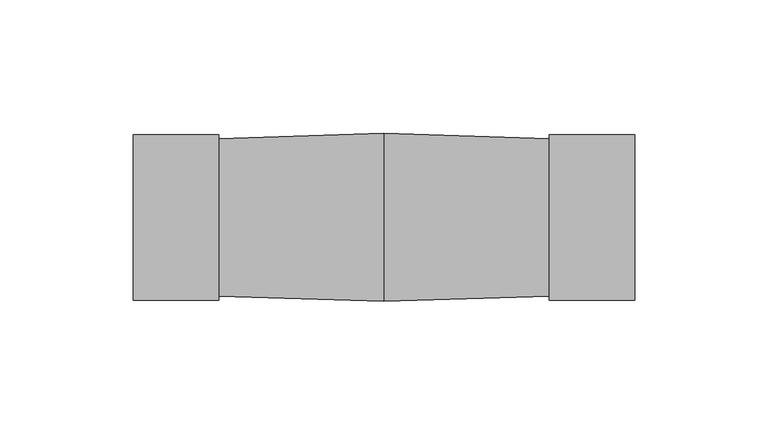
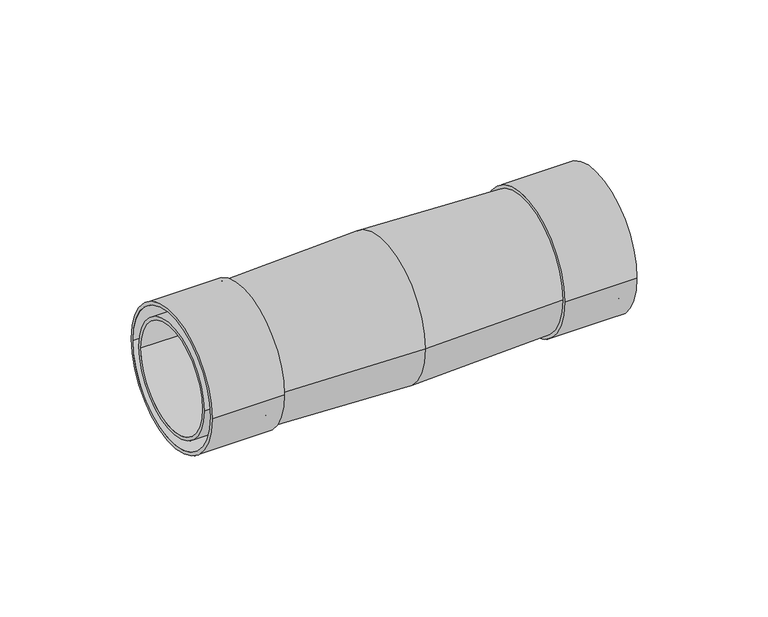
"""IFC4 building model written with IfcOpenShell, lengths in millimetres: cable carrier fitting geometry, КНС_МуфтаДляАрмированныхТруб_IP65_DKC : Коробка."""

from ifc_helpers import new_model, si_unit, point, frame, origin, origin_2d, place, context, project, spatial, polyline, circle_curve, trimmed, segment, composite_curve, outline, extrude, source, transform, mapped, element, save
from ifc_brep_helpers import plane_surface, revolved_surface, advanced_brep


def cable_carrier_fitting_927482d8(model_context):
    return source(origin(), model_context, "Body", "SolidModel", [
        advanced_brep(
        [(-62.0, -29.5, 0.0), (-62.0, 29.5, 0.0), (0.0, 31.5, 0.0), (0.0, -31.5, 0.0), (-62.0, 0.0, 0.0), (62.0, -29.5, 0.0), (62.0, 29.5, 0.0), (62.0, 0.0, 0.0)],
        [
            (0, 1, circle_curve(frame((-62.0, 0.0, 0.0), z_axis=(1.0, 0.0, 0.0), x_axis=(0.0, 1.0, 0.0)), 29.5)),
            (1, 2),
            (2, 3, circle_curve(frame((0.0, 0.0, 0.0), z_axis=(-1.0, 0.0, 0.0), x_axis=(0.0, 1.0, 0.0)), 31.5)),
            (3, 0),
            (1, 0, circle_curve(frame((-62.0, 0.0, 0.0), z_axis=(1.0, 0.0, 0.0), x_axis=(0.0, 1.0, 0.0)), 29.5)),
            (3, 2, circle_curve(frame((0.0, 0.0, 0.0), z_axis=(-1.0, 0.0, 0.0), x_axis=(0.0, 1.0, 0.0)), 31.5)),
            (4, 1),
            (0, 4),
            (5, 6, circle_curve(frame((62.0, 0.0, 0.0), z_axis=(1.0, 0.0, 0.0), x_axis=(0.0, 1.0, 0.0)), 29.5)),
            (6, 7),
            (7, 5),
            (6, 5, circle_curve(frame((62.0, 0.0, 0.0), z_axis=(1.0, 0.0, 0.0), x_axis=(0.0, 1.0, 0.0)), 29.5)),
            (2, 6),
            (5, 3),
        ],
        [
            revolved_surface(polyline([(0.0, 31.5, 0.0), (-62.0, 29.5, 0.0)]), (1545.0, 0.0, 0.0), (-1.0, 0.0, 0.0)),
            plane_surface(frame((-62.0, 0.0, 0.0), z_axis=(-1.0, 0.0, 0.0), x_axis=(0.0, 1.0, 0.0))),
            plane_surface(frame((62.0, 0.0, 0.0), z_axis=(1.0, 0.0, 0.0), x_axis=(0.0, 1.0, 0.0))),
            revolved_surface(polyline([(62.0, 29.5, 0.0), (0.0, 31.5, 0.0)]), (1545.0, 0.0, 0.0), (-1.0, 0.0, 0.0)),
        ],
        [
            (0, [[1, 2, 3, 4]]),
            (0, [[5, -4, 6, -2]]),
            (1, [[7, -1, 8]]),
            (1, [[-8, -5, -7]]),
            (2, [[9, 10, 11]]),
            (2, [[12, -11, -10]]),
            (3, [[-3, 13, -9, 14]]),
            (3, [[-6, -14, -12, -13]]),
        ],
    ),
        extrude(outline(composite_curve([segment(trimmed(circle_curve(origin_2d(), 25.0), [point((-25.0, 0.0))], [point((25.0, 0.0))], False, "CARTESIAN"), True, "CONTINUOUS"), segment(trimmed(circle_curve(origin_2d(), 25.0), [point((25.0, 0.0))], [point((-25.0, 0.0))], False, "CARTESIAN"), True, "CONTINUOUS")], self_intersect=False), holes=[composite_curve([segment(trimmed(circle_curve(origin_2d(), 23.5), [point((-23.5, 0.0))], [point((23.5, 0.0))], True, "CARTESIAN"), True, "CONTINUOUS"), segment(trimmed(circle_curve(origin_2d(), 23.5), [point((23.5, 0.0))], [point((-23.5, 0.0))], True, "CARTESIAN"), True, "CONTINUOUS")], self_intersect=False)]), frame((-94.0, 0.0, 0.0), z_axis=(1.0, 0.0, 0.0), x_axis=(0.0, 1.0, 0.0)), (0.0, 0.0, 1.0), 32.0),
        extrude(outline(composite_curve([segment(trimmed(circle_curve(origin_2d(), 31.0), [point((-31.0, 0.0))], [point((31.0, 0.0))], False, "CARTESIAN"), True, "CONTINUOUS"), segment(trimmed(circle_curve(origin_2d(), 31.0), [point((31.0, 0.0))], [point((-31.0, 0.0))], False, "CARTESIAN"), True, "CONTINUOUS")], self_intersect=False), holes=[composite_curve([segment(trimmed(circle_curve(origin_2d(), 29.5), [point((-29.5, 0.0))], [point((29.5, 0.0))], True, "CARTESIAN"), True, "CONTINUOUS"), segment(trimmed(circle_curve(origin_2d(), 29.5), [point((29.5, 0.0))], [point((-29.5, 0.0))], True, "CARTESIAN"), True, "CONTINUOUS")], self_intersect=False)]), frame((-94.0, 0.0, 0.0), z_axis=(1.0, 0.0, 0.0), x_axis=(0.0, 1.0, 0.0)), (0.0, 0.0, 1.0), 32.0),
        extrude(outline(composite_curve([segment(trimmed(circle_curve(origin_2d(), 31.0), [point((-31.0, 0.0))], [point((31.0, 0.0))], False, "CARTESIAN"), True, "CONTINUOUS"), segment(trimmed(circle_curve(origin_2d(), 31.0), [point((31.0, 0.0))], [point((-31.0, 0.0))], False, "CARTESIAN"), True, "CONTINUOUS")], self_intersect=False), holes=[composite_curve([segment(trimmed(circle_curve(origin_2d(), 29.5), [point((-29.5, 0.0))], [point((29.5, 0.0))], True, "CARTESIAN"), True, "CONTINUOUS"), segment(trimmed(circle_curve(origin_2d(), 29.5), [point((29.5, 0.0))], [point((-29.5, 0.0))], True, "CARTESIAN"), True, "CONTINUOUS")], self_intersect=False)]), frame((62.0, 0.0, 0.0), z_axis=(1.0, 0.0, 0.0), x_axis=(0.0, 1.0, 0.0)), (0.0, 0.0, 1.0), 32.0),
        extrude(outline(composite_curve([segment(trimmed(circle_curve(origin_2d(), 25.0), [point((-25.0, 0.0))], [point((25.0, 0.0))], False, "CARTESIAN"), True, "CONTINUOUS"), segment(trimmed(circle_curve(origin_2d(), 25.0), [point((25.0, 0.0))], [point((-25.0, 0.0))], False, "CARTESIAN"), True, "CONTINUOUS")], self_intersect=False), holes=[composite_curve([segment(trimmed(circle_curve(origin_2d(), 23.5), [point((-23.5, 0.0))], [point((23.5, 0.0))], True, "CARTESIAN"), True, "CONTINUOUS"), segment(trimmed(circle_curve(origin_2d(), 23.5), [point((23.5, 0.0))], [point((-23.5, 0.0))], True, "CARTESIAN"), True, "CONTINUOUS")], self_intersect=False)]), frame((62.0, 0.0, 0.0), z_axis=(1.0, 0.0, 0.0), x_axis=(0.0, 1.0, 0.0)), (0.0, 0.0, 1.0), 32.0),
    ])


if __name__ == "__main__":
    model = new_model("IFC4")
    model_context = context("Model", 3, world=origin())
    ifc_project = project(units=[si_unit("LENGTHUNIT", "METRE", prefix="MILLI")], contexts=[model_context])
    site = spatial("IfcSite", under=ifc_project)
    building = spatial("IfcBuilding", under=site)
    placement = place(None, origin())
    cable_carrier_fitting_shape = cable_carrier_fitting_927482d8(model_context)
    element("IfcCableCarrierFitting", 1, ObjectType="КНС_МуфтаДляАрмированныхТруб_IP65_DKC : Коробка", at=placement, inside=building, context=model_context, shape_type="MappedRepresentation", body=[
        mapped(cable_carrier_fitting_shape, transform((0.0, 0.0, 0.0), x_axis=(1.0, 0.0, 0.0), y_axis=(0.0, 1.0, 0.0), z_axis=(0.0, 0.0, 1.0))),
    ])
    save(model, "model.ifc")
